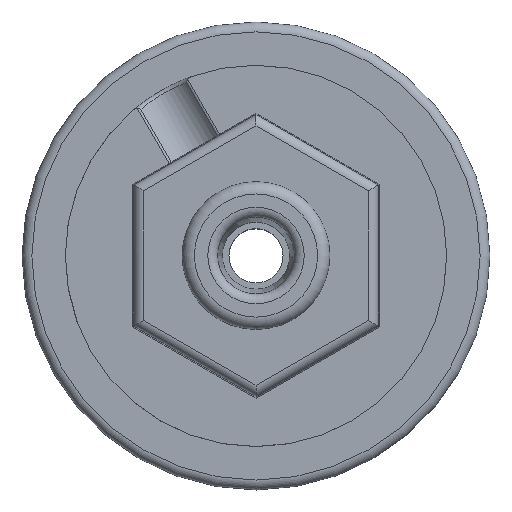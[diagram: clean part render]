
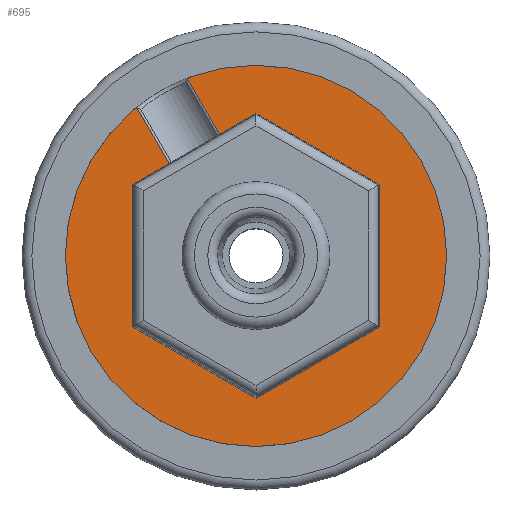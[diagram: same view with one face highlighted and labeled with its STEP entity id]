
A CAD part, top view. The second image highlights one B-rep face of the part: STEP entity #695.
In plain terms, the highlighted planar face has unit normal (0, 0, 1).
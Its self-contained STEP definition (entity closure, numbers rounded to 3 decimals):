
#33=PLANE('',#766);
#62=FACE_OUTER_BOUND('',#105,.T.);
#105=EDGE_LOOP('',(#506,#507,#508,#509,#510,#511,#512,#513,#514,#515,#516,
#517,#518));
#150=B_SPLINE_CURVE_WITH_KNOTS('',3,(#1164,#1165,#1166,#1167,#1168,#1169),
 .UNSPECIFIED.,.F.,.F.,(4,2,4),(0.,0.009,0.016),
 .UNSPECIFIED.);
#152=B_SPLINE_CURVE_WITH_KNOTS('',3,(#1176,#1177,#1178,#1179,#1180,#1181,
#1182,#1183,#1184,#1185,#1186,#1187,#1188,#1189,#1190,#1191,#1192,#1193,
#1194),.UNSPECIFIED.,.F.,.F.,(4,3,3,3,3,3,4),(0.013,0.015,
0.015,0.019,0.022,0.026,
0.029),.UNSPECIFIED.);
#164=CIRCLE('',#767,7.74);
#165=CIRCLE('',#768,7.74);
#195=LINE('',#1073,#246);
#196=LINE('',#1096,#247);
#199=LINE('',#1206,#250);
#203=LINE('',#1213,#254);
#205=LINE('',#1254,#256);
#206=LINE('',#1256,#257);
#207=LINE('',#1258,#258);
#208=LINE('',#1260,#259);
#209=LINE('',#1261,#260);
#246=VECTOR('',#845,10.);
#247=VECTOR('',#848,10.);
#250=VECTOR('',#867,10.);
#254=VECTOR('',#871,10.);
#256=VECTOR('',#883,10.);
#257=VECTOR('',#884,10.);
#258=VECTOR('',#885,10.);
#259=VECTOR('',#886,10.);
#260=VECTOR('',#887,10.);
#298=VERTEX_POINT('',#1070);
#299=VERTEX_POINT('',#1072);
#300=VERTEX_POINT('',#1094);
#301=VERTEX_POINT('',#1095);
#304=VERTEX_POINT('',#1156);
#305=VERTEX_POINT('',#1157);
#308=VERTEX_POINT('',#1205);
#311=VERTEX_POINT('',#1211);
#317=VERTEX_POINT('',#1253);
#318=VERTEX_POINT('',#1255);
#319=VERTEX_POINT('',#1257);
#320=VERTEX_POINT('',#1259);
#321=VERTEX_POINT('',#1262);
#363=EDGE_CURVE('',#298,#299,#195,.T.);
#365=EDGE_CURVE('',#300,#301,#196,.T.);
#370=EDGE_CURVE('',#305,#300,#150,.T.);
#372=EDGE_CURVE('',#299,#304,#152,.T.);
#378=EDGE_CURVE('',#308,#301,#199,.T.);
#382=EDGE_CURVE('',#298,#311,#203,.T.);
#389=EDGE_CURVE('',#311,#317,#205,.T.);
#390=EDGE_CURVE('',#317,#318,#206,.T.);
#391=EDGE_CURVE('',#318,#319,#207,.T.);
#392=EDGE_CURVE('',#319,#320,#208,.T.);
#393=EDGE_CURVE('',#320,#308,#209,.T.);
#394=EDGE_CURVE('',#305,#321,#164,.T.);
#395=EDGE_CURVE('',#321,#304,#165,.T.);
#506=ORIENTED_EDGE('',*,*,#363,.F.);
#507=ORIENTED_EDGE('',*,*,#382,.T.);
#508=ORIENTED_EDGE('',*,*,#389,.T.);
#509=ORIENTED_EDGE('',*,*,#390,.T.);
#510=ORIENTED_EDGE('',*,*,#391,.T.);
#511=ORIENTED_EDGE('',*,*,#392,.T.);
#512=ORIENTED_EDGE('',*,*,#393,.T.);
#513=ORIENTED_EDGE('',*,*,#378,.T.);
#514=ORIENTED_EDGE('',*,*,#365,.F.);
#515=ORIENTED_EDGE('',*,*,#370,.F.);
#516=ORIENTED_EDGE('',*,*,#394,.T.);
#517=ORIENTED_EDGE('',*,*,#395,.T.);
#518=ORIENTED_EDGE('',*,*,#372,.F.);
#695=ADVANCED_FACE('',(#62),#33,.T.);
#766=AXIS2_PLACEMENT_3D('',#1252,#881,#882);
#767=AXIS2_PLACEMENT_3D('',#1263,#888,#889);
#768=AXIS2_PLACEMENT_3D('',#1264,#890,#891);
#845=DIRECTION('',(-0.5,0.866,0.));
#848=DIRECTION('',(0.5,-0.866,0.));
#867=DIRECTION('',(0.866,0.5,0.));
#871=DIRECTION('',(0.866,0.5,0.));
#881=DIRECTION('center_axis',(0.,0.,1.));
#882=DIRECTION('ref_axis',(1.,0.,0.));
#883=DIRECTION('',(0.866,-0.5,0.));
#884=DIRECTION('',(0.,-1.,0.));
#885=DIRECTION('',(-0.866,-0.5,0.));
#886=DIRECTION('',(-0.866,0.5,0.));
#887=DIRECTION('',(0.,1.,0.));
#888=DIRECTION('center_axis',(0.,0.,1.));
#889=DIRECTION('ref_axis',(-1.,0.,0.));
#890=DIRECTION('center_axis',(0.,0.,1.));
#891=DIRECTION('ref_axis',(-1.,0.,0.));
#1070=CARTESIAN_POINT('',(-1.474,4.922,3.5));
#1072=CARTESIAN_POINT('',(-2.772,7.171,3.5));
#1073=CARTESIAN_POINT('',(-3.974,9.252,3.5));
#1094=CARTESIAN_POINT('',(-4.822,5.988,3.5));
#1095=CARTESIAN_POINT('',(-3.524,3.739,3.5));
#1096=CARTESIAN_POINT('',(-6.024,8.069,3.5));
#1156=CARTESIAN_POINT('',(-2.651,7.272,3.5));
#1157=CARTESIAN_POINT('',(-4.97,5.934,3.5));
#1164=CARTESIAN_POINT('Ctrl Pts',(-4.97,5.934,3.5));
#1165=CARTESIAN_POINT('Ctrl Pts',(-4.946,5.953,3.5));
#1166=CARTESIAN_POINT('Ctrl Pts',(-4.919,5.969,3.5));
#1167=CARTESIAN_POINT('Ctrl Pts',(-4.867,5.985,3.5));
#1168=CARTESIAN_POINT('Ctrl Pts',(-4.844,5.989,3.5));
#1169=CARTESIAN_POINT('Ctrl Pts',(-4.822,5.988,3.5));
#1176=CARTESIAN_POINT('Ctrl Pts',(-2.772,7.171,3.5));
#1177=CARTESIAN_POINT('Ctrl Pts',(-2.77,7.176,3.5));
#1178=CARTESIAN_POINT('Ctrl Pts',(-2.767,7.181,3.5));
#1179=CARTESIAN_POINT('Ctrl Pts',(-2.763,7.186,3.5));
#1180=CARTESIAN_POINT('Ctrl Pts',(-2.762,7.187,3.5));
#1181=CARTESIAN_POINT('Ctrl Pts',(-2.761,7.189,3.5));
#1182=CARTESIAN_POINT('Ctrl Pts',(-2.76,7.191,3.5));
#1183=CARTESIAN_POINT('Ctrl Pts',(-2.753,7.2,3.5));
#1184=CARTESIAN_POINT('Ctrl Pts',(-2.746,7.209,3.5));
#1185=CARTESIAN_POINT('Ctrl Pts',(-2.738,7.217,3.5));
#1186=CARTESIAN_POINT('Ctrl Pts',(-2.731,7.224,3.5));
#1187=CARTESIAN_POINT('Ctrl Pts',(-2.723,7.23,3.5));
#1188=CARTESIAN_POINT('Ctrl Pts',(-2.715,7.236,3.5));
#1189=CARTESIAN_POINT('Ctrl Pts',(-2.705,7.244,3.5));
#1190=CARTESIAN_POINT('Ctrl Pts',(-2.694,7.252,3.5));
#1191=CARTESIAN_POINT('Ctrl Pts',(-2.682,7.258,3.5));
#1192=CARTESIAN_POINT('Ctrl Pts',(-2.672,7.263,3.5));
#1193=CARTESIAN_POINT('Ctrl Pts',(-2.662,7.268,3.5));
#1194=CARTESIAN_POINT('Ctrl Pts',(-2.651,7.272,3.5));
#1205=CARTESIAN_POINT('',(-5.,2.887,3.5));
#1206=CARTESIAN_POINT('',(-1.25,5.052,3.5));
#1211=CARTESIAN_POINT('',(0.,5.774,3.5));
#1213=CARTESIAN_POINT('',(-1.25,5.052,3.5));
#1252=CARTESIAN_POINT('Origin',(0.,0.,3.5));
#1253=CARTESIAN_POINT('',(5.,2.887,3.5));
#1254=CARTESIAN_POINT('',(3.75,3.608,3.5));
#1255=CARTESIAN_POINT('',(5.,-2.887,3.5));
#1256=CARTESIAN_POINT('',(5.,-1.443,3.5));
#1257=CARTESIAN_POINT('',(0.,-5.774,3.5));
#1258=CARTESIAN_POINT('',(1.25,-5.052,3.5));
#1259=CARTESIAN_POINT('',(-5.,-2.887,3.5));
#1260=CARTESIAN_POINT('',(-3.75,-3.608,3.5));
#1261=CARTESIAN_POINT('',(-5.,1.443,3.5));
#1262=CARTESIAN_POINT('',(7.74,0.,3.5));
#1263=CARTESIAN_POINT('Origin',(0.,0.,3.5));
#1264=CARTESIAN_POINT('Origin',(0.,0.,3.5));
